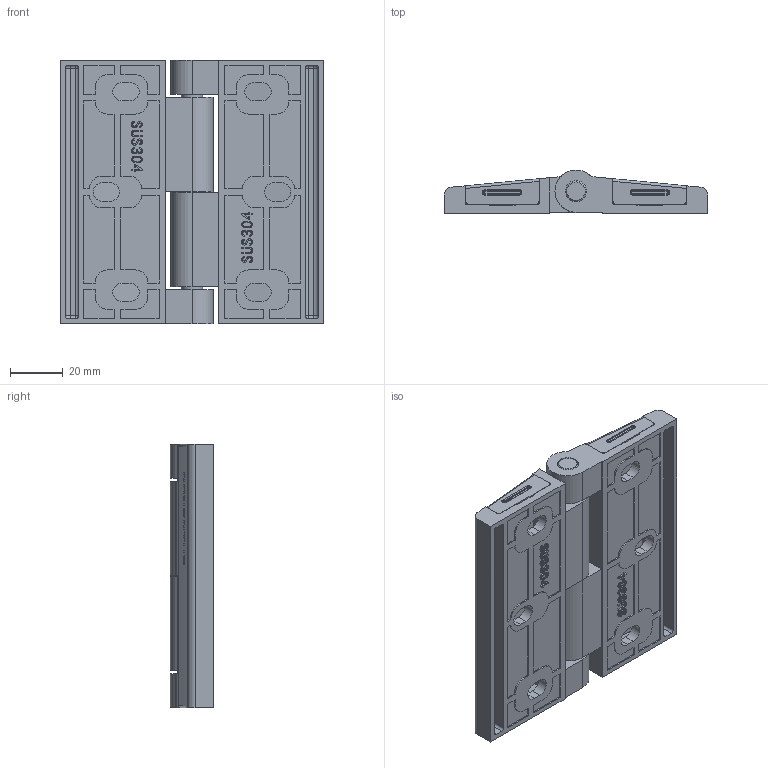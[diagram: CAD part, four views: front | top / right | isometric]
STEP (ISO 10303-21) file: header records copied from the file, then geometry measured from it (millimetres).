
FILE_DESCRIPTION (( 'STEP AP203' ), '1' );
FILE_NAME ('SK2-003-2S-FULL.STEP', '2019-03-20T07:52:38', ( 'admin' ), ( 'Microsoft' ), 'SwSTEP 2.0', 'SolidWorks 2018', '' );
FILE_SCHEMA (( 'CONFIG_CONTROL_DESIGN' ));
Length unit declared in the file: millimetre
Products named in the file (4): SK2-003-2S-FULL; SK2-003-2S-F1; SK2-003-2S-F2; SK2-003-2S-F3
Assembly tree (5 placements, depth 2):
  SK2-003-2S-FULL
    SK2-003-2S-F1  x2
    SK2-003-2S-F2  x2
    SK2-003-2S-F3
Bounding box: 100 x 16.5 x 100 mm (x, y, z)
Volume: 71553.6 mm3; surface area: 53208.6 mm2
Topology: 5 solids, 5 shells, 1228 faces, 3284 edges, 2154 vertices
Faces by surface type: plane 756, bspline 256, cylinder 152, torus 44, sphere 16, cone 4
Entity records: 29626 total; most frequent: CARTESIAN_POINT 14486, ORIENTED_EDGE 3278, DIRECTION 2572, EDGE_CURVE 1639, LINE 1182, VECTOR 1182, VERTEX_POINT 1081, AXIS2_PLACEMENT_3D 695
